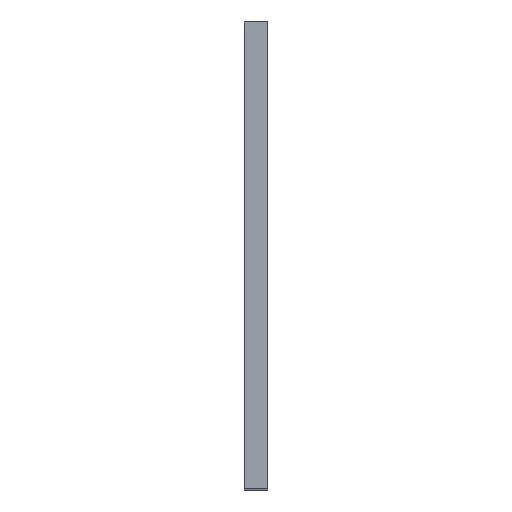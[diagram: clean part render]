
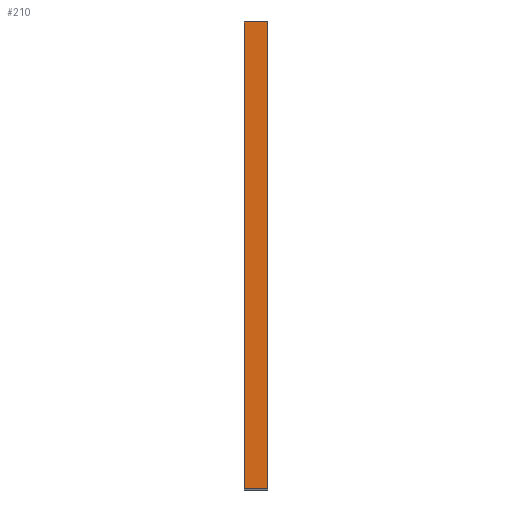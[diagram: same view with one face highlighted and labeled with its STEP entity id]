
A CAD part, top view. The second image highlights one B-rep face of the part: STEP entity #210.
In plain terms, the highlighted planar face has unit normal (0, 0, 1).
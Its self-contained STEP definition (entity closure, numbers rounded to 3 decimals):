
#158=CARTESIAN_POINT('Vertex',(0.,196.,460.)) ;
#161=CARTESIAN_POINT('Line Origine',(5.,196.,460.)) ;
#165=CARTESIAN_POINT('Vertex',(10.,196.,460.)) ;
#180=CARTESIAN_POINT('Axis2P3D Location',(0.,196.,460.)) ;
#185=CARTESIAN_POINT('Line Origine',(0.,98.,460.)) ;
#189=CARTESIAN_POINT('Vertex',(0.,0.,460.)) ;
#192=CARTESIAN_POINT('Line Origine',(5.,0.,460.)) ;
#196=CARTESIAN_POINT('Vertex',(10.,0.,460.)) ;
#199=CARTESIAN_POINT('Line Origine',(10.,98.,460.)) ;
#162=DIRECTION('Vector Direction',(1.,0.,0.)) ;
#181=DIRECTION('Axis2P3D Direction',(-0.,0.,1.)) ;
#182=DIRECTION('Axis2P3D XDirection',(0.,-1.,0.)) ;
#186=DIRECTION('Vector Direction',(0.,-1.,0.)) ;
#193=DIRECTION('Vector Direction',(1.,0.,0.)) ;
#200=DIRECTION('Vector Direction',(0.,-1.,0.)) ;
#183=AXIS2_PLACEMENT_3D('Plane Axis2P3D',#180,#181,#182) ;
#205=ORIENTED_EDGE('',*,*,#167,.F.) ;
#206=ORIENTED_EDGE('',*,*,#191,.T.) ;
#207=ORIENTED_EDGE('',*,*,#198,.T.) ;
#208=ORIENTED_EDGE('',*,*,#203,.F.) ;
#163=VECTOR('Line Direction',#162,1.) ;
#187=VECTOR('Line Direction',#186,1.) ;
#194=VECTOR('Line Direction',#193,1.) ;
#201=VECTOR('Line Direction',#200,1.) ;
#210=ADVANCED_FACE('Corps principal',(#209),#184,.T.) ;
#167=EDGE_CURVE('',#159,#166,#164,.T.) ;
#191=EDGE_CURVE('',#159,#190,#188,.T.) ;
#198=EDGE_CURVE('',#190,#197,#195,.T.) ;
#203=EDGE_CURVE('',#166,#197,#202,.T.) ;
#204=EDGE_LOOP('',(#205,#206,#207,#208)) ;
#209=FACE_OUTER_BOUND('',#204,.T.) ;
#164=LINE('Line',#161,#163) ;
#188=LINE('Line',#185,#187) ;
#195=LINE('Line',#192,#194) ;
#202=LINE('Line',#199,#201) ;
#184=PLANE('Plane',#183) ;
#159=VERTEX_POINT('',#158) ;
#166=VERTEX_POINT('',#165) ;
#190=VERTEX_POINT('',#189) ;
#197=VERTEX_POINT('',#196) ;
